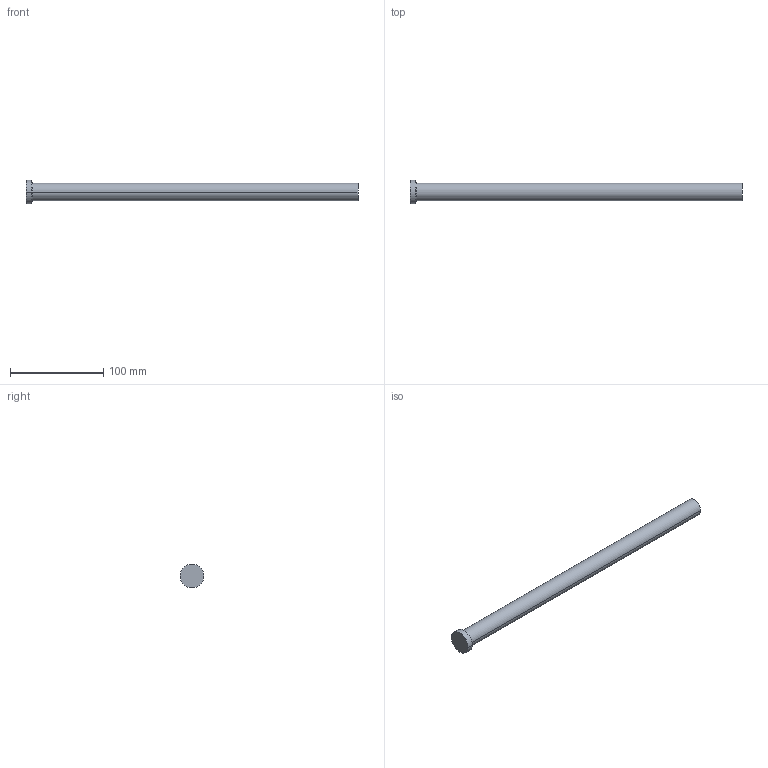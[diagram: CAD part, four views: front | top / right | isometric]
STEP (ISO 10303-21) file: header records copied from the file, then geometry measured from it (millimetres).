
FILE_DESCRIPTION (( 'STEP AP214' ), '1' );
FILE_NAME ('P41-14.STEP', '2020-03-12T12:18:23', ( '' ), ( '' ), 'SwSTEP 2.0', 'SolidWorks 2018', '' );
FILE_SCHEMA (( 'AUTOMOTIVE_DESIGN' ));
Length unit declared in the file: inch
Products named in the file (1): P41-14
Bounding box: 355.6 x 25.4 x 25.4 mm (x, y, z)
Volume: 102635.9 mm3; surface area: 22379 mm2
Topology: 1 solids, 1 shells, 13 faces, 24 edges, 14 vertices
Faces by surface type: cone 4, cylinder 4, plane 3, torus 2
Entity records: 366 total; most frequent: DIRECTION 68, CARTESIAN_POINT 52, ORIENTED_EDGE 48, AXIS2_PLACEMENT_3D 30, EDGE_CURVE 24, CIRCLE 16, EDGE_LOOP 14, VERTEX_POINT 14
